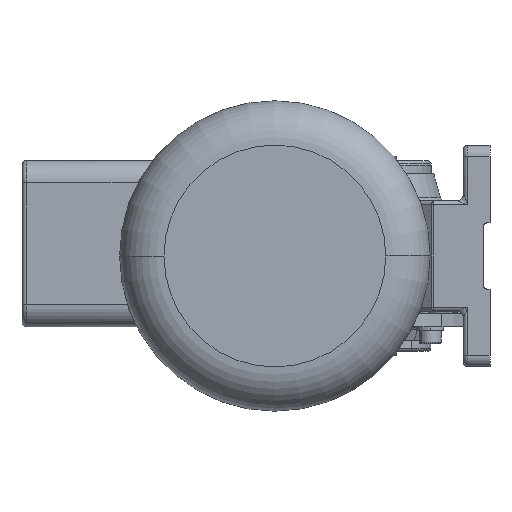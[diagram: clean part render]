
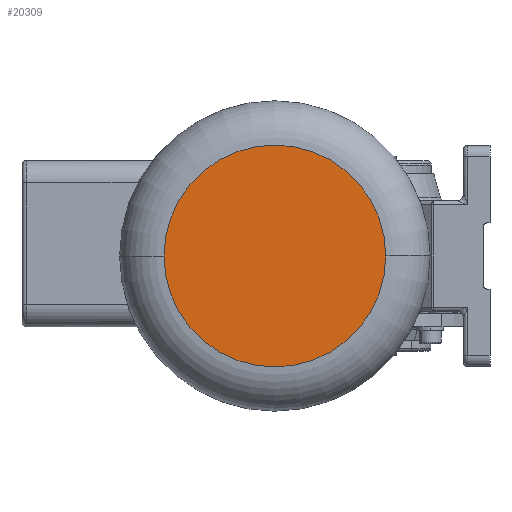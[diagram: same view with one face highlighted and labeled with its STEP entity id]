
A CAD part, left-side view. The second image highlights one B-rep face of the part: STEP entity #20309.
In plain terms, the highlighted planar face has unit normal (-1, 0, 0).
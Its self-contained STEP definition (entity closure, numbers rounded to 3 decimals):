
#311 = DIRECTION ( 'NONE',  ( 1., 0., 0. ) ) ;
#1352 = CARTESIAN_POINT ( 'NONE',  ( -378.378, 61.012, 0. ) ) ;
#1658 = CARTESIAN_POINT ( 'NONE',  ( -378.378, -38.988, 0. ) ) ;
#2103 = DIRECTION ( 'NONE',  ( 0., 1., 0. ) ) ;
#2197 = CARTESIAN_POINT ( 'NONE',  ( -378.378, 11.012, 0. ) ) ;
#2932 = CARTESIAN_POINT ( 'NONE',  ( -378.378, 11.012, 0. ) ) ;
#3241 = EDGE_LOOP ( 'NONE', ( #6286, #13547 ) ) ;
#3626 = VERTEX_POINT ( 'NONE', #1352 ) ;
#3797 = FACE_OUTER_BOUND ( 'NONE', #3241, .T. ) ;
#6286 = ORIENTED_EDGE ( 'NONE', *, *, #22036, .T. ) ;
#7599 = CIRCLE ( 'NONE', #17251, 50. ) ;
#7707 = DIRECTION ( 'NONE',  ( -1., 0., 0. ) ) ;
#9380 = DIRECTION ( 'NONE',  ( 0., 1., 0. ) ) ;
#10943 = CIRCLE ( 'NONE', #18780, 50. ) ;
#12481 = PLANE ( 'NONE',  #13955 ) ;
#13547 = ORIENTED_EDGE ( 'NONE', *, *, #21160, .T. ) ;
#13955 = AXIS2_PLACEMENT_3D ( 'NONE', #19355, #311, #2103 ) ;
#16375 = VERTEX_POINT ( 'NONE', #1658 ) ;
#16592 = DIRECTION ( 'NONE',  ( -1., 0., 0. ) ) ;
#17251 = AXIS2_PLACEMENT_3D ( 'NONE', #2197, #7707, #9380 ) ;
#18780 = AXIS2_PLACEMENT_3D ( 'NONE', #2932, #16592, #21627 ) ;
#19355 = CARTESIAN_POINT ( 'NONE',  ( -378.378, 11.012, 0. ) ) ;
#20309 = ADVANCED_FACE ( 'NONE', ( #3797 ), #12481, .F. ) ;
#21160 = EDGE_CURVE ( 'NONE', #16375, #3626, #7599, .T. ) ;
#21627 = DIRECTION ( 'NONE',  ( 0., 1., 0. ) ) ;
#22036 = EDGE_CURVE ( 'NONE', #3626, #16375, #10943, .T. ) ;
